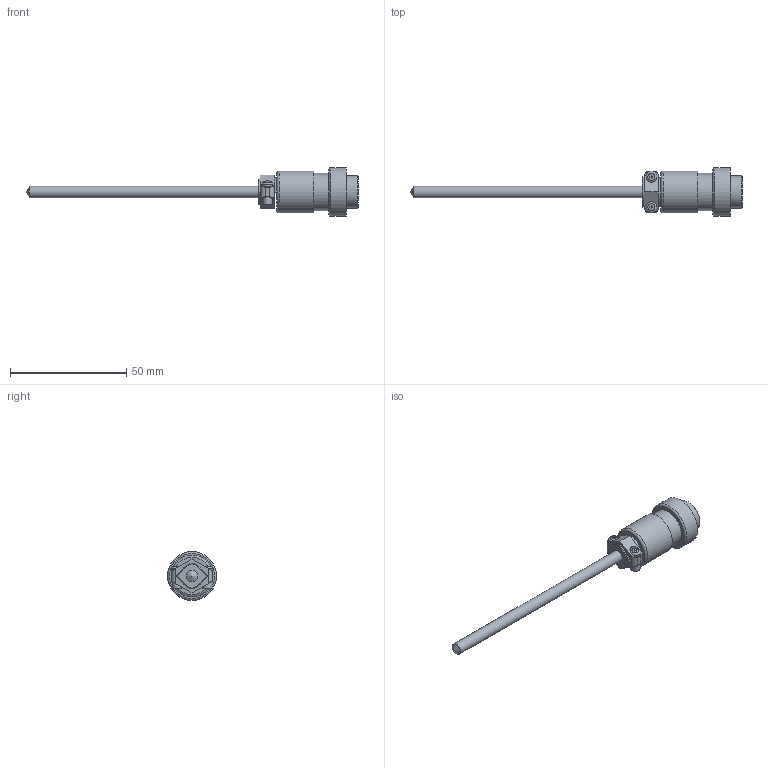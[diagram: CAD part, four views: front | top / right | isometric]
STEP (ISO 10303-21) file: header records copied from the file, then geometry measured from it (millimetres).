
FILE_DESCRIPTION (( 'STEP AP203' ), '1' );
FILE_NAME ('YIR90-4(0).step', '2025-05-28T07:06:16', ( '' ), ( '' ), 'SwSTEP 2.0', 'SolidWorks 2021', '' );
FILE_SCHEMA (( 'CONFIG_CONTROL_DESIGN' ));
Length unit declared in the file: millimetre
Products named in the file (1): YIR90-4(0)
Bounding box: 143 x 21 x 21 mm (x, y, z)
Volume: 10239.7 mm3; surface area: 6341.4 mm2
Topology: 4 solids, 4 shells, 84 faces, 202 edges, 132 vertices
Faces by surface type: plane 50, cylinder 21, torus 4, bspline 4, sphere 3, cone 2
Full cylindrical faces by diameter (mm): 2 x2, 2.5 x1, 4 x2, 4.7 x2, 4.8 x2, 5 x1, 13.5 x1, 14 x1, 16 x2, 18 x1, 21 x1
Entity records: 2421 total; most frequent: CARTESIAN_POINT 621, DIRECTION 336, ORIENTED_EDGE 320, EDGE_CURVE 160, EDGE_LOOP 122, VERTEX_POINT 118, AXIS2_PLACEMENT_3D 117, FACE_OUTER_BOUND 104
